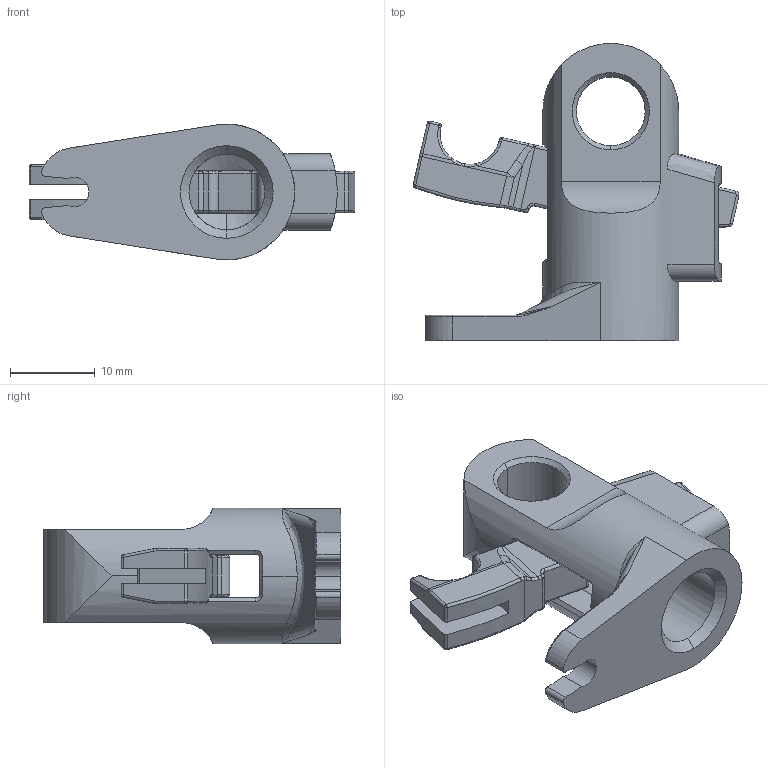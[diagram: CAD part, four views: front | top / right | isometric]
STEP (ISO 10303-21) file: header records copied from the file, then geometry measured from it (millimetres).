
FILE_DESCRIPTION (( 'STEP AP214' ), '1' );
FILE_NAME ('203 200 448.STEP', '2018-04-03T09:29:56', ( '' ), ( '' ), 'SwSTEP 2.0', 'SolidWorks 2017', '' );
FILE_SCHEMA (( 'AUTOMOTIVE_DESIGN' ));
Length unit declared in the file: millimetre
Products named in the file (3): 203 200 448; 203 200 444; 203 200 268
Assembly tree (2 placements, depth 2):
  203 200 448
    203 200 444
    203 200 268
Bounding box: 38.38 x 35 x 16 mm (x, y, z)
Volume: 5857 mm3; surface area: 4466 mm2
Topology: 2 solids, 2 shells, 221 faces, 550 edges, 318 vertices
Faces by surface type: cylinder 88, bspline 65, plane 48, cone 10, torus 10
Entity records: 11022 total; most frequent: CARTESIAN_POINT 6198, ORIENTED_EDGE 1076, DIRECTION 866, EDGE_CURVE 538, AXIS2_PLACEMENT_3D 330, VERTEX_POINT 318, EDGE_LOOP 224, FACE_OUTER_BOUND 221
